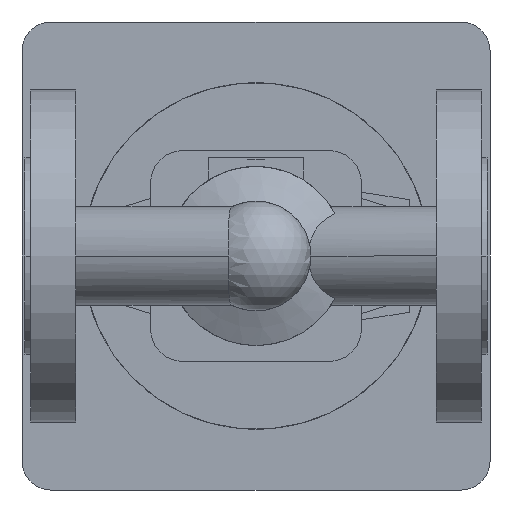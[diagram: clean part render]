
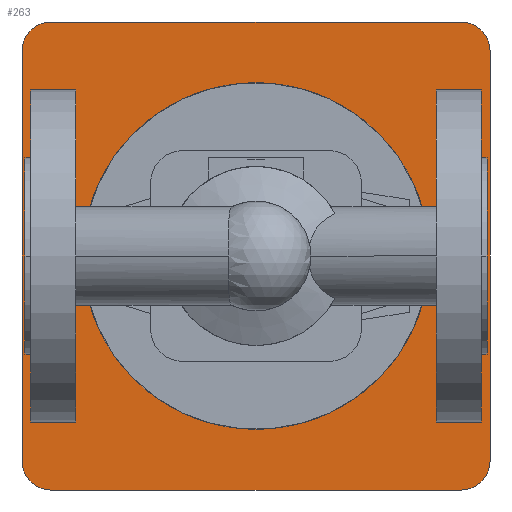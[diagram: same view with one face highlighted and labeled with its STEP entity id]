
A CAD part, front view. The second image highlights one B-rep face of the part: STEP entity #263.
In plain terms, the highlighted planar face has unit normal (0, -1, 0).
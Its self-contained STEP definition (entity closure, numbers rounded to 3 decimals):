
#263 = ADVANCED_FACE( '', ( #603, #604 ), #605, .F. );
#603 = FACE_OUTER_BOUND( '', #969, .T. );
#604 = FACE_BOUND( '', #970, .T. );
#605 = PLANE( '', #971 );
#969 = EDGE_LOOP( '', ( #2118, #2119, #2120, #2121, #2122, #2123, #2124, #2125 ) );
#970 = EDGE_LOOP( '', ( #2126, #2127 ) );
#971 = AXIS2_PLACEMENT_3D( '', #2128, #2129, #2130 );
#2118 = ORIENTED_EDGE( '', *, *, #2648, .F. );
#2119 = ORIENTED_EDGE( '', *, *, #2649, .F. );
#2120 = ORIENTED_EDGE( '', *, *, #2650, .F. );
#2121 = ORIENTED_EDGE( '', *, *, #2651, .F. );
#2122 = ORIENTED_EDGE( '', *, *, #2652, .F. );
#2123 = ORIENTED_EDGE( '', *, *, #2653, .F. );
#2124 = ORIENTED_EDGE( '', *, *, #2654, .F. );
#2125 = ORIENTED_EDGE( '', *, *, #2655, .F. );
#2126 = ORIENTED_EDGE( '', *, *, #2563, .F. );
#2127 = ORIENTED_EDGE( '', *, *, #2656, .F. );
#2128 = CARTESIAN_POINT( '', ( 80., 406., 0. ) );
#2129 = DIRECTION( '', ( 0., 1., 0. ) );
#2130 = DIRECTION( '', ( 0., 0., 1. ) );
#2563 = EDGE_CURVE( '', #3140, #3143, #3144, .T. );
#2648 = EDGE_CURVE( '', #3287, #3288, #3289, .T. );
#2649 = EDGE_CURVE( '', #3290, #3287, #3291, .T. );
#2650 = EDGE_CURVE( '', #3292, #3290, #3293, .T. );
#2651 = EDGE_CURVE( '', #3294, #3292, #3295, .T. );
#2652 = EDGE_CURVE( '', #3296, #3294, #3297, .T. );
#2653 = EDGE_CURVE( '', #3298, #3296, #3299, .T. );
#2654 = EDGE_CURVE( '', #3300, #3298, #3301, .T. );
#2655 = EDGE_CURVE( '', #3288, #3300, #3302, .T. );
#2656 = EDGE_CURVE( '', #3143, #3140, #3303, .T. );
#3140 = VERTEX_POINT( '', #4267 );
#3143 = VERTEX_POINT( '', #4271 );
#3144 = CIRCLE( '', #4272, 40. );
#3287 = VERTEX_POINT( '', #4470 );
#3288 = VERTEX_POINT( '', #4471 );
#3289 = CIRCLE( '', #4472, 10. );
#3290 = VERTEX_POINT( '', #4473 );
#3291 = LINE( '', #4474, #4475 );
#3292 = VERTEX_POINT( '', #4476 );
#3293 = CIRCLE( '', #4477, 10. );
#3294 = VERTEX_POINT( '', #4478 );
#3295 = LINE( '', #4479, #4480 );
#3296 = VERTEX_POINT( '', #4481 );
#3297 = CIRCLE( '', #4482, 10. );
#3298 = VERTEX_POINT( '', #4483 );
#3299 = LINE( '', #4484, #4485 );
#3300 = VERTEX_POINT( '', #4486 );
#3301 = CIRCLE( '', #4487, 10. );
#3302 = LINE( '', #4488, #4489 );
#3303 = CIRCLE( '', #4490, 40. );
#4267 = CARTESIAN_POINT( '', ( 40., 406., 0. ) );
#4271 = CARTESIAN_POINT( '', ( 120., 406., 0. ) );
#4272 = AXIS2_PLACEMENT_3D( '', #5048, #5049, #5050 );
#4470 = CARTESIAN_POINT( '', ( -1., 406., 71. ) );
#4471 = CARTESIAN_POINT( '', ( 9., 406., 81. ) );
#4472 = AXIS2_PLACEMENT_3D( '', #5193, #5194, #5195 );
#4473 = CARTESIAN_POINT( '', ( -1., 406., -71. ) );
#4474 = CARTESIAN_POINT( '', ( -1., 406., -71. ) );
#4475 = VECTOR( '', #5196, 1. );
#4476 = CARTESIAN_POINT( '', ( 9., 406., -81. ) );
#4477 = AXIS2_PLACEMENT_3D( '', #5197, #5198, #5199 );
#4478 = CARTESIAN_POINT( '', ( 151., 406., -81. ) );
#4479 = CARTESIAN_POINT( '', ( 151., 406., -81. ) );
#4480 = VECTOR( '', #5200, 1. );
#4481 = CARTESIAN_POINT( '', ( 161., 406., -71. ) );
#4482 = AXIS2_PLACEMENT_3D( '', #5201, #5202, #5203 );
#4483 = CARTESIAN_POINT( '', ( 161., 406., 71. ) );
#4484 = CARTESIAN_POINT( '', ( 161., 406., 71. ) );
#4485 = VECTOR( '', #5204, 1. );
#4486 = CARTESIAN_POINT( '', ( 151., 406., 81. ) );
#4487 = AXIS2_PLACEMENT_3D( '', #5205, #5206, #5207 );
#4488 = CARTESIAN_POINT( '', ( 9., 406., 81. ) );
#4489 = VECTOR( '', #5208, 1. );
#4490 = AXIS2_PLACEMENT_3D( '', #5209, #5210, #5211 );
#5048 = CARTESIAN_POINT( '', ( 80., 406., 0. ) );
#5049 = DIRECTION( '', ( 0., -1., 0. ) );
#5050 = DIRECTION( '', ( -1., 0., 0. ) );
#5193 = CARTESIAN_POINT( '', ( 9., 406., 71. ) );
#5194 = DIRECTION( '', ( 0., 1., 0. ) );
#5195 = DIRECTION( '', ( -1., 0., 0. ) );
#5196 = DIRECTION( '', ( 0., 0., 1. ) );
#5197 = CARTESIAN_POINT( '', ( 9., 406., -71. ) );
#5198 = DIRECTION( '', ( 0., 1., 0. ) );
#5199 = DIRECTION( '', ( 0., 0., -1. ) );
#5200 = DIRECTION( '', ( -1., 0., 0. ) );
#5201 = CARTESIAN_POINT( '', ( 151., 406., -71. ) );
#5202 = DIRECTION( '', ( 0., 1., 0. ) );
#5203 = DIRECTION( '', ( 1., 0., 0. ) );
#5204 = DIRECTION( '', ( 0., 0., -1. ) );
#5205 = CARTESIAN_POINT( '', ( 151., 406., 71. ) );
#5206 = DIRECTION( '', ( 0., 1., 0. ) );
#5207 = DIRECTION( '', ( 0., 0., 1. ) );
#5208 = DIRECTION( '', ( 1., 0., 0. ) );
#5209 = CARTESIAN_POINT( '', ( 80., 406., 0. ) );
#5210 = DIRECTION( '', ( 0., -1., 0. ) );
#5211 = DIRECTION( '', ( -1., 0., 0. ) );
